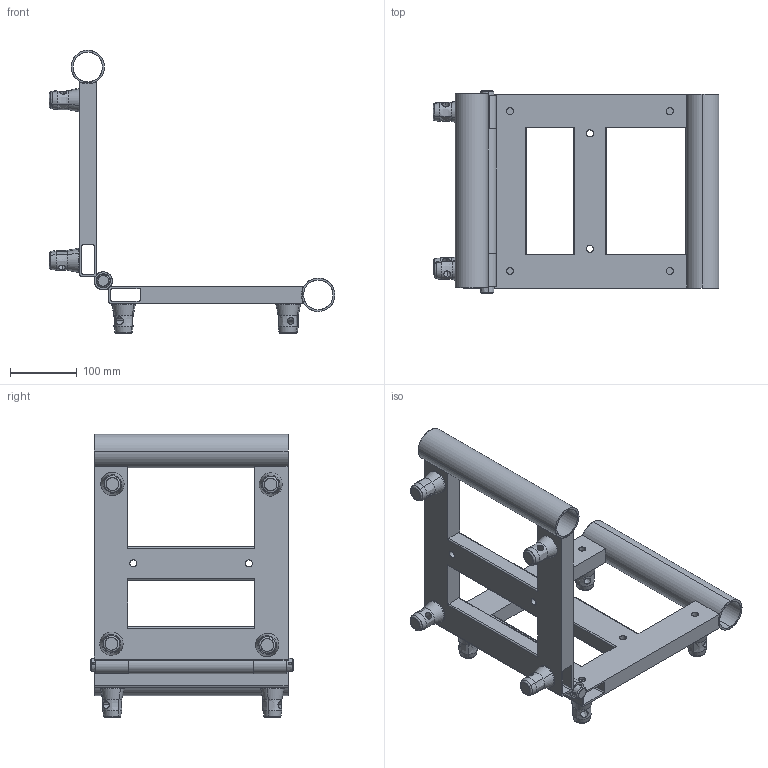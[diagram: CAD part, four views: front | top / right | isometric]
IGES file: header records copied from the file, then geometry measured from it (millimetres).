
Start section: SolidWorks IGES file using analytic representation for surfaces
Global section: file name: K:\BIBLIO\asd_biblio\Accessoires\ANGV259\ANGV259.IGS; native system: SolidWorks 2009; preprocessor: SolidWorks 2009; author: des3; date: 091026.134720; units: millimetre
Bounding box: 427.65 x 305 x 423.76 mm (x, y, z)
Surface area: 645037.5 mm2 (no closed solid volume)
Topology: 0 solids, 0 shells, 246 faces, 5392 edges, 5392 vertices
Faces by surface type: revolution 166, bspline 80
